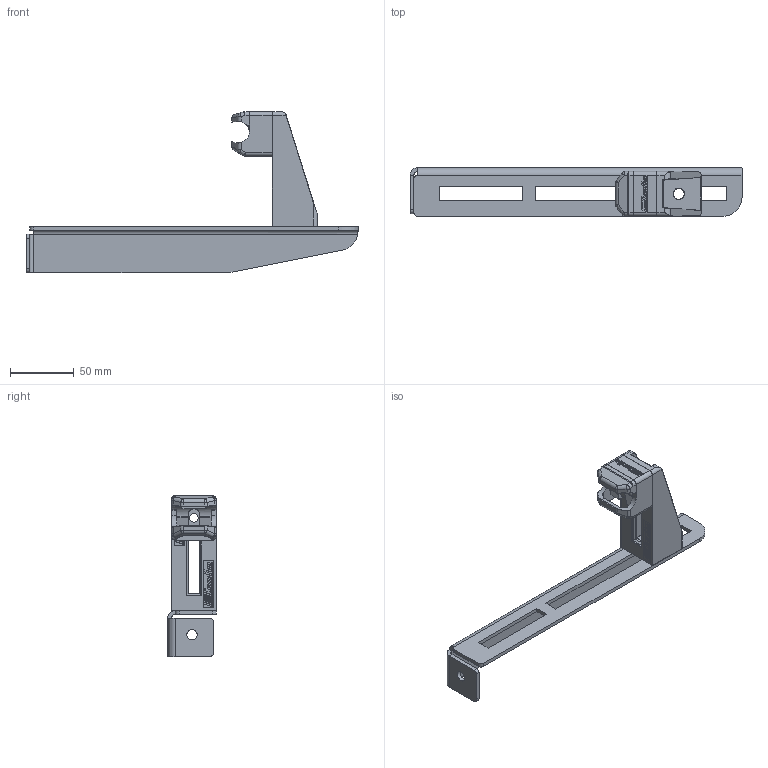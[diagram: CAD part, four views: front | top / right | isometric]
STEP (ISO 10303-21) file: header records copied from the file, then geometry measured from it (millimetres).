
FILE_DESCRIPTION(/* description */ (''),/* implementation_level */ '2;1');
FILE_NAME(/* name */ '\\carryline.intra\privat\users\mathias\Desktop\Tillfälliga filer\300-0920.stp',/* time_stamp */ '2018-11-30T08:54:52+01:00',/* author */ ('PL'),/* organization */ (''),/* preprocessor_version */ 'ST-DEVELOPER v17',/* originating_system */ 'Autodesk Inventor 2018',/* authorisation */ '');
FILE_SCHEMA (('AUTOMOTIVE_DESIGN { 1 0 10303 214 3 1 1 }'));
Length unit declared in the file: millimetre
Products named in the file (4): 300-0920; 300-2260; 300-2090; 300-1000
Assembly tree (3 placements, depth 2):
  300-0920
    300-2260
    300-2090
    300-1000
Bounding box: 260 x 38 x 126.1 mm (x, y, z)
Volume: 102039.2 mm3; surface area: 62420.2 mm2
Topology: 5 solids, 5 shells, 910 faces, 2208 edges, 1295 vertices
Faces by surface type: plane 510, cylinder 227, bspline 70, sphere 54, torus 49
Full cylindrical faces by diameter (mm): 6.647 x1, 8.1 x1, 8.5 x1, 9 x1
Entity records: 28078 total; most frequent: CARTESIAN_POINT 6553, DIRECTION 4338, ORIENTED_EDGE 4276, EDGE_CURVE 2138, LINE 1512, VECTOR 1512, AXIS2_PLACEMENT_3D 1413, VERTEX_POINT 1295
